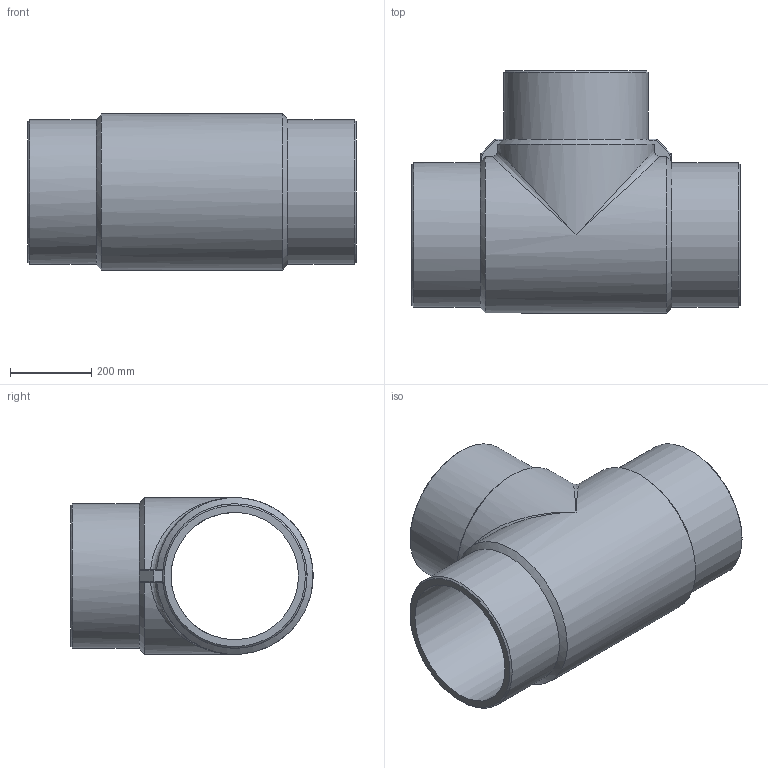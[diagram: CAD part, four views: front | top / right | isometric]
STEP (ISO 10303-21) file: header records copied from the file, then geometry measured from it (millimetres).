
FILE_DESCRIPTION(/* description */ ('Unknown'),/* implementation_level */ '2;1');
FILE_NAME(/* name */ 'TP355B',/* time_stamp */ '2022-06-06T17:13:03+02:00',/* author */ ('Unknown'),/* organization */ ('Unknown'),/* preprocessor_version */ 'ST-DEVELOPER v18.102',/* originating_system */ 'Solid Edge',/* authorisation */ 'Unknown');
FILE_SCHEMA (('AUTOMOTIVE_DESIGN {1 0 10303 214 3 1 1}'));
Length unit declared in the file: millimetre
Products named in the file (1): TP355B
Bounding box: 806 x 594.93 x 385 mm (x, y, z)
Volume: 29968448.5 mm3; surface area: 2193390.8 mm2
Topology: 1 solids, 1 shells, 57 faces, 150 edges, 82 vertices
Faces by surface type: cylinder 24, plane 13, cone 8, sphere 8, bspline 4
Full cylindrical faces by diameter (mm): 312.8 x2, 355 x3
Entity records: 1732 total; most frequent: CARTESIAN_POINT 495, DIRECTION 256, ORIENTED_EDGE 238, EDGE_CURVE 119, AXIS2_PLACEMENT_3D 108, VERTEX_POINT 75, EDGE_LOOP 70, FACE_BOUND 70
